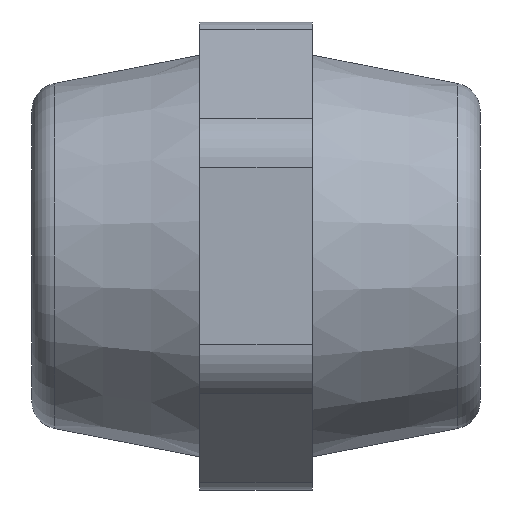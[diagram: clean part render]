
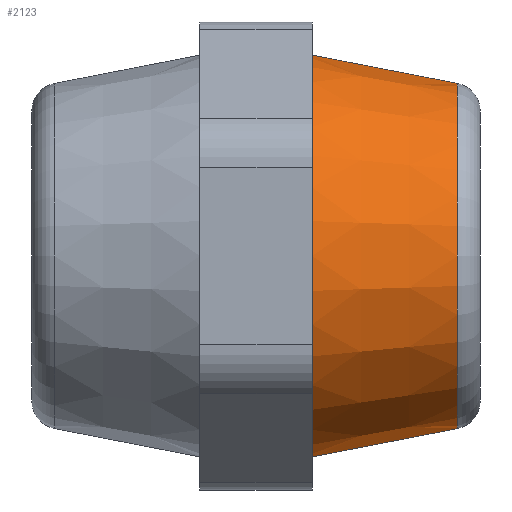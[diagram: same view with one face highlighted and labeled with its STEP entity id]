
A CAD part, left-side view. The second image highlights one B-rep face of the part: STEP entity #2123.
In plain terms, the highlighted conical face has half-angle 11 degrees and reference radius 6 mm.
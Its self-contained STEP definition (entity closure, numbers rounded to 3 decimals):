
#64 = VECTOR ( 'NONE', #1707, 1000. ) ;
#102 = EDGE_CURVE ( 'NONE', #910, #326, #2006, .T. ) ;
#195 = LINE ( 'NONE', #1023, #64 ) ;
#326 = VERTEX_POINT ( 'NONE', #2308 ) ;
#407 = DIRECTION ( 'NONE',  ( 0., 1., 0. ) ) ;
#490 = FACE_OUTER_BOUND ( 'NONE', #1428, .T. ) ;
#502 = DIRECTION ( 'NONE',  ( 0., 0., -1. ) ) ;
#669 = AXIS2_PLACEMENT_3D ( 'NONE', #2597, #690, #502 ) ;
#690 = DIRECTION ( 'NONE',  ( 0., 1., 0. ) ) ;
#843 = VERTEX_POINT ( 'NONE', #2217 ) ;
#852 = CARTESIAN_POINT ( 'NONE',  ( 0., 0.809, 0. ) ) ;
#902 = CIRCLE ( 'NONE', #2098, 7.166 ) ;
#910 = VERTEX_POINT ( 'NONE', #2687 ) ;
#1019 = CARTESIAN_POINT ( 'NONE',  ( 0., 6., 0. ) ) ;
#1023 = CARTESIAN_POINT ( 'NONE',  ( 0., 0., 6. ) ) ;
#1247 = DIRECTION ( 'NONE',  ( 0., 0., 1. ) ) ;
#1253 = CARTESIAN_POINT ( 'NONE',  ( 0., 0.809, 6.157 ) ) ;
#1303 = CARTESIAN_POINT ( 'NONE',  ( 0., 0., -6. ) ) ;
#1360 = VECTOR ( 'NONE', #2443, 1000. ) ;
#1428 = EDGE_LOOP ( 'NONE', ( #2193, #2598, #2471, #1762 ) ) ;
#1491 = DIRECTION ( 'NONE',  ( 0., 0., -1. ) ) ;
#1526 = EDGE_CURVE ( 'NONE', #1811, #843, #195, .T. ) ;
#1707 = DIRECTION ( 'NONE',  ( 0., 0.982, 0.191 ) ) ;
#1762 = ORIENTED_EDGE ( 'NONE', *, *, #102, .F. ) ;
#1799 = AXIS2_PLACEMENT_3D ( 'NONE', #852, #407, #1247 ) ;
#1811 = VERTEX_POINT ( 'NONE', #1253 ) ;
#1864 = CONICAL_SURFACE ( 'NONE', #669, 6., 0.192 ) ;
#2006 = LINE ( 'NONE', #1303, #1360 ) ;
#2098 = AXIS2_PLACEMENT_3D ( 'NONE', #1019, #2760, #1491 ) ;
#2123 = ADVANCED_FACE ( 'NONE', ( #490 ), #1864, .T. ) ;
#2193 = ORIENTED_EDGE ( 'NONE', *, *, #2714, .T. ) ;
#2217 = CARTESIAN_POINT ( 'NONE',  ( 0., 6., 7.166 ) ) ;
#2289 = CIRCLE ( 'NONE', #1799, 6.157 ) ;
#2308 = CARTESIAN_POINT ( 'NONE',  ( 0., 6., -7.166 ) ) ;
#2443 = DIRECTION ( 'NONE',  ( 0., 0.982, -0.191 ) ) ;
#2471 = ORIENTED_EDGE ( 'NONE', *, *, #2593, .T. ) ;
#2593 = EDGE_CURVE ( 'NONE', #843, #326, #902, .T. ) ;
#2597 = CARTESIAN_POINT ( 'NONE',  ( 0., 0., 0. ) ) ;
#2598 = ORIENTED_EDGE ( 'NONE', *, *, #1526, .T. ) ;
#2687 = CARTESIAN_POINT ( 'NONE',  ( 0., 0.809, -6.157 ) ) ;
#2714 = EDGE_CURVE ( 'NONE', #910, #1811, #2289, .T. ) ;
#2760 = DIRECTION ( 'NONE',  ( 0., -1., 0. ) ) ;
